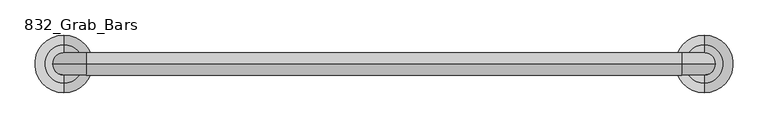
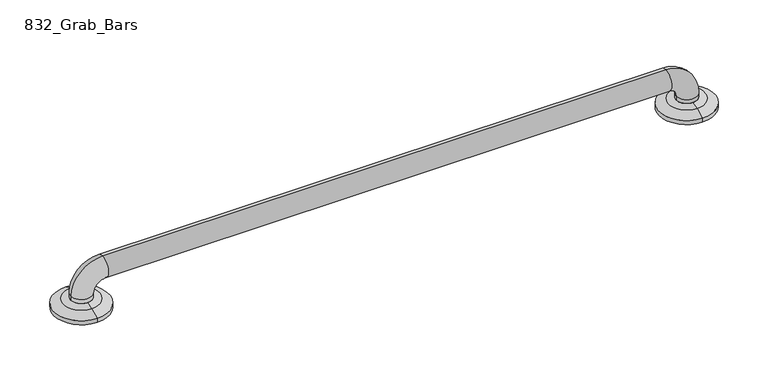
"""IFC4 building model written with IfcOpenShell, lengths in millimetres: proxy geometry, 832_Grab_Bars : 8320-001360."""

from ifc_helpers import new_model, si_unit, point, frame, origin, place, context, project, spatial, polyline, circle_curve, ellipse_curve, trimmed, source, transform, mapped, element, save
from ifc_brep_helpers import plane_surface, cylinder_surface, revolved_surface, advanced_brep


def proxy_832_grab_bars_51fee9e1(model_context):
    return source(origin(), model_context, "Body", "AdvancedBrep", [
        advanced_brep(
        [(-363.5375, -564.1630987, 13.1934507), (-363.5375, -508.9869013, 13.1934507), (-363.5375, -495.3, 6.35), (-363.5375, -577.85, 6.35), (-363.5375, -552.8038734, 15.875), (-363.5375, -520.3461266, 15.875), (-363.5375, -552.45, 15.875), (-379.4125, -536.575, 15.875), (-363.5375, -520.7, 15.875), (-347.6625, -536.575, 15.875), (-363.5375, -577.85, 0.0), (-363.5375, -495.3, 0.0), (-363.5375, -520.7, 0.0), (-363.5375, -536.575, 0.0), (-363.5375, -552.45, 0.0), (550.8625, -564.2276895, 13.1934507), (550.8625, -509.0514921, 13.1934507), (550.8625, -495.3645908, 6.35), (550.8625, -577.9145908, 6.35), (550.8625, -552.8684641, 15.875), (550.8625, -520.4107174, 15.875), (550.8625, -552.45, 15.875), (534.9875, -536.575, 15.875), (550.8625, -520.7, 15.875), (566.7375, -536.575, 15.875), (550.8625, -577.9145908, 0.0), (550.8625, -495.3645908, 0.0), (550.8625, -520.7, 0.0), (550.8625, -536.6395908, 0.0), (550.8625, -552.45, 0.0), (-379.4125, -536.575, 22.225), (-347.6625, -536.575, 22.225), (-331.7875, -536.575, 69.85), (-331.7875, -536.575, 38.1), (519.1125, -536.575, 69.85), (519.1125, -536.575, 38.1), (566.7375, -536.575, 22.225), (534.9875, -536.575, 22.225)],
        [
            (0, 1, circle_curve(frame((-363.5375, -536.575, 13.1934507), z_axis=(0.0, 0.0, -1.0), x_axis=(0.0, 1.0, 0.0)), 27.5880987)),
            (1, 2),
            (2, 3, circle_curve(frame((-363.5375, -536.575, 6.35), z_axis=(0.0, 0.0, 1.0), x_axis=(0.0, 1.0, 0.0)), 41.275)),
            (3, 0),
            (1, 0, circle_curve(frame((-363.5375, -536.575, 13.1934507), z_axis=(0.0, 0.0, -1.0), x_axis=(0.0, 1.0, 0.0)), 27.5880987)),
            (3, 2, circle_curve(frame((-363.5375, -536.575, 6.35), z_axis=(0.0, 0.0, 1.0), x_axis=(0.0, 1.0, 0.0)), 41.275)),
            (0, 4, circle_curve(frame((-363.5375, -552.8038734, -9.525), z_axis=(-1.0, 0.0, 0.0), x_axis=(0.0, 0.0, -1.0)), 25.4)),
            (4, 5, circle_curve(frame((-363.5375, -536.575, 15.875), z_axis=(0.0, 0.0, -1.0), x_axis=(0.0, 1.0, 0.0)), 16.2288734)),
            (5, 1, circle_curve(frame((-363.5375, -520.3461266, -9.525), z_axis=(-1.0, 0.0, 0.0), x_axis=(0.0, 0.0, -1.0)), 25.4)),
            (5, 4, circle_curve(frame((-363.5375, -536.575, 15.875), z_axis=(0.0, 0.0, -1.0), x_axis=(0.0, 1.0, 0.0)), 16.2288734)),
            (4, 6),
            (6, 7, circle_curve(frame((-363.5375, -536.575, 15.875), z_axis=(0.0, 0.0, -1.0), x_axis=(1.0, 0.0, 0.0)), 15.875)),
            (7, 8, circle_curve(frame((-363.5375, -536.575, 15.875), z_axis=(0.0, 0.0, -1.0), x_axis=(1.0, 0.0, 0.0)), 15.875)),
            (8, 5),
            (8, 9, circle_curve(frame((-363.5375, -536.575, 15.875), z_axis=(0.0, 0.0, -1.0), x_axis=(1.0, 0.0, 0.0)), 15.875)),
            (9, 6, circle_curve(frame((-363.5375, -536.575, 15.875), z_axis=(0.0, 0.0, -1.0), x_axis=(1.0, 0.0, 0.0)), 15.875)),
            (10, 11, circle_curve(frame((-363.5375, -536.575, 0.0), z_axis=(0.0, 0.0, -1.0), x_axis=(0.0, 1.0, 0.0)), 41.275)),
            (11, 12),
            (12, 13),
            (13, 14),
            (14, 10),
            (11, 10, circle_curve(frame((-363.5375, -536.575, 0.0), z_axis=(0.0, 0.0, -1.0), x_axis=(0.0, 1.0, 0.0)), 41.275)),
            (2, 11),
            (10, 3),
            (15, 16, circle_curve(frame((550.8625, -536.6395908, 13.1934507), z_axis=(0.0, 0.0, -1.0), x_axis=(0.0, 1.0, 0.0)), 27.5880987)),
            (16, 17),
            (17, 18, circle_curve(frame((550.8625, -536.6395908, 6.35), z_axis=(0.0, 0.0, 1.0), x_axis=(0.0, 1.0, 0.0)), 41.275)),
            (18, 15),
            (16, 15, circle_curve(frame((550.8625, -536.6395908, 13.1934507), z_axis=(0.0, 0.0, -1.0), x_axis=(0.0, 1.0, 0.0)), 27.5880987)),
            (18, 17, circle_curve(frame((550.8625, -536.6395908, 6.35), z_axis=(0.0, 0.0, 1.0), x_axis=(0.0, 1.0, 0.0)), 41.275)),
            (15, 19, circle_curve(frame((550.8625, -552.8684641, -9.525), z_axis=(-1.0, 0.0, 0.0), x_axis=(0.0, 0.0, -1.0)), 25.4)),
            (19, 20, circle_curve(frame((550.8625, -536.6395908, 15.875), z_axis=(0.0, 0.0, -1.0), x_axis=(0.0, 1.0, 0.0)), 16.2288734)),
            (20, 16, circle_curve(frame((550.8625, -520.4107174, -9.525), z_axis=(-1.0, 0.0, 0.0), x_axis=(0.0, 0.0, -1.0)), 25.4)),
            (20, 19, circle_curve(frame((550.8625, -536.6395908, 15.875), z_axis=(0.0, 0.0, -1.0), x_axis=(0.0, 1.0, 0.0)), 16.2288734)),
            (19, 21),
            (21, 22, circle_curve(frame((550.8625, -536.575, 15.875), z_axis=(0.0, 0.0, -1.0), x_axis=(-1.0, 0.0, 0.0)), 15.875)),
            (22, 23, circle_curve(frame((550.8625, -536.575, 15.875), z_axis=(0.0, 0.0, -1.0), x_axis=(-1.0, 0.0, 0.0)), 15.875)),
            (23, 20),
            (23, 24, circle_curve(frame((550.8625, -536.575, 15.875), z_axis=(0.0, 0.0, -1.0), x_axis=(-1.0, 0.0, 0.0)), 15.875)),
            (24, 21, circle_curve(frame((550.8625, -536.575, 15.875), z_axis=(0.0, 0.0, -1.0), x_axis=(-1.0, 0.0, 0.0)), 15.875)),
            (25, 26, circle_curve(frame((550.8625, -536.6395908, 0.0), z_axis=(0.0, 0.0, -1.0), x_axis=(0.0, 1.0, 0.0)), 41.275)),
            (26, 27),
            (27, 28),
            (28, 29),
            (29, 25),
            (26, 25, circle_curve(frame((550.8625, -536.6395908, 0.0), z_axis=(0.0, 0.0, -1.0), x_axis=(0.0, 1.0, 0.0)), 41.275)),
            (17, 26),
            (25, 18),
            (30, 31, circle_curve(frame((-363.5375, -536.575, 22.225), z_axis=(0.0, 0.0, -1.0), x_axis=(1.0, 0.0, 0.0)), 15.875)),
            (31, 9),
            (7, 30),
            (31, 30, circle_curve(frame((-363.5375, -536.575, 22.225), z_axis=(0.0, 0.0, -1.0), x_axis=(1.0, 0.0, 0.0)), 15.875)),
            (30, 32, circle_curve(frame((-331.7875, -536.575, 22.225), z_axis=(0.0, 1.0, 0.0), x_axis=(-1.0, 0.0, 0.0)), 47.625)),
            (32, 33, circle_curve(frame((-331.7875, -536.575, 53.975), z_axis=(-1.0, 0.0, 0.0), x_axis=(0.0, 0.0, -1.0)), 15.875)),
            (33, 31, circle_curve(frame((-331.7875, -536.575, 22.225), z_axis=(0.0, -1.0, 0.0), x_axis=(-1.0, 0.0, 0.0)), 15.875)),
            (33, 32, circle_curve(frame((-331.7875, -536.575, 53.975), z_axis=(-1.0, 0.0, 0.0), x_axis=(0.0, 0.0, -1.0)), 15.875)),
            (32, 34),
            (34, 35, circle_curve(frame((519.1125, -536.575, 53.975), z_axis=(-1.0, 0.0, 0.0), x_axis=(0.0, 0.0, -1.0)), 15.875)),
            (35, 33),
            (35, 34, circle_curve(frame((519.1125, -536.575, 53.975), z_axis=(-1.0, 0.0, 0.0), x_axis=(0.0, 0.0, -1.0)), 15.875)),
            (34, 36, circle_curve(frame((519.1125, -536.575, 22.225), z_axis=(0.0, 1.0, 0.0), x_axis=(0.0, 0.0, 1.0)), 47.625)),
            (36, 37, circle_curve(frame((550.8625, -536.575, 22.225), z_axis=(0.0, 0.0, 1.0), x_axis=(-1.0, 0.0, 0.0)), 15.875)),
            (37, 35, circle_curve(frame((519.1125, -536.575, 22.225), z_axis=(0.0, -1.0, 0.0), x_axis=(0.0, 0.0, 1.0)), 15.875)),
            (37, 36, circle_curve(frame((550.8625, -536.575, 22.225), z_axis=(0.0, 0.0, 1.0), x_axis=(-1.0, 0.0, 0.0)), 15.875)),
            (36, 24),
            (22, 37),
        ],
        [
            revolved_surface(polyline([(-363.5375, -495.3, 6.35), (-363.5375, -508.9869013, 13.1934507)]), (-363.5375, -536.575, 31.75), (0.0, 0.0, 1.0)),
            revolved_surface(trimmed(ellipse_curve(frame((-363.5375, -520.3461266, -9.525), z_axis=(1.0, 0.0, 0.0), x_axis=(0.0, 0.0, -1.0)), 25.4, 25.4), [point((-363.5375, -508.9869013, 13.1934507))], [point((-363.5375, -520.3461266, 15.875))], True, "CARTESIAN"), (-363.5375, -536.575, 31.75), (0.0, 0.0, 1.0)),
            plane_surface(frame((-363.5375, -536.575, 15.875), z_axis=(0.0, 0.0, 1.0), x_axis=(0.0, 1.0, 0.0))),
            plane_surface(frame((-363.5375, -536.575, 0.0), z_axis=(0.0, 0.0, -1.0), x_axis=(0.0, 1.0, 0.0))),
            cylinder_surface(frame((-363.5375, -536.575, 31.75), z_axis=(0.0, 0.0, 1.0), x_axis=(0.0, 1.0, 0.0)), 41.275),
            revolved_surface(polyline([(550.8625, -495.3645908, 6.35), (550.8625, -509.0514921, 13.1934507)]), (550.8625, -536.6395908, 31.75), (0.0, 0.0, 1.0)),
            revolved_surface(trimmed(ellipse_curve(frame((550.8625, -520.4107174, -9.525), z_axis=(1.0, 0.0, 0.0), x_axis=(0.0, 0.0, -1.0)), 25.4, 25.4), [point((550.8625, -509.0514921, 13.1934507))], [point((550.8625, -520.4107174, 15.875))], True, "CARTESIAN"), (550.8625, -536.6395908, 31.75), (0.0, 0.0, 1.0)),
            plane_surface(frame((550.8625, -536.6395908, 15.875), z_axis=(0.0, 0.0, 1.0), x_axis=(0.0, 1.0, 0.0))),
            plane_surface(frame((550.8625, -536.6395908, 0.0), z_axis=(0.0, 0.0, -1.0), x_axis=(0.0, 1.0, 0.0))),
            cylinder_surface(frame((550.8625, -536.6395908, 31.75), z_axis=(0.0, 0.0, 1.0), x_axis=(0.0, 1.0, 0.0)), 41.275),
            cylinder_surface(frame((-363.5375, -536.575, 0.0), z_axis=(0.0, 0.0, -1.0), x_axis=(1.0, 0.0, 0.0)), 15.875),
            revolved_surface(trimmed(ellipse_curve(frame((-363.5375, -536.575, 22.225), z_axis=(0.0, 0.0, -1.0), x_axis=(1.0, 0.0, 0.0)), 15.875, 15.875), [point((-379.4125, -536.575, 22.225))], [point((-347.6625, -536.575, 22.225))], True, "CARTESIAN"), (-331.7875, -536.575, 22.225), (0.0, 1.0, 0.0)),
            revolved_surface(trimmed(ellipse_curve(frame((-363.5375, -536.575, 22.225), z_axis=(0.0, 0.0, -1.0), x_axis=(1.0, 0.0, 0.0)), 15.875, 15.875), [point((-347.6625, -536.575, 22.225))], [point((-379.4125, -536.575, 22.225))], True, "CARTESIAN"), (-331.7875, -536.575, 22.225), (0.0, 1.0, 0.0)),
            cylinder_surface(frame((-331.7875, -536.575, 53.975), z_axis=(-1.0, 0.0, 0.0), x_axis=(0.0, 0.0, -1.0)), 15.875),
            revolved_surface(trimmed(ellipse_curve(frame((519.1125, -536.575, 53.975), z_axis=(-1.0, 0.0, 0.0), x_axis=(0.0, 0.0, -1.0)), 15.875, 15.875), [point((519.1125, -536.575, 69.85))], [point((519.1125, -536.575, 38.1))], True, "CARTESIAN"), (519.1125, -536.575, 22.225), (0.0, 1.0, 0.0)),
            revolved_surface(trimmed(ellipse_curve(frame((519.1125, -536.575, 53.975), z_axis=(-1.0, 0.0, 0.0), x_axis=(0.0, 0.0, -1.0)), 15.875, 15.875), [point((519.1125, -536.575, 38.1))], [point((519.1125, -536.575, 69.85))], True, "CARTESIAN"), (519.1125, -536.575, 22.225), (0.0, 1.0, 0.0)),
            cylinder_surface(frame((550.8625, -536.575, 22.225), z_axis=(0.0, 0.0, 1.0), x_axis=(-1.0, 0.0, 0.0)), 15.875),
        ],
        [
            (0, [[1, 2, 3, 4]]),
            (0, [[-2, 5, -4, 6]]),
            (1, [[-1, 7, 8, 9]]),
            (1, [[-5, -9, 10, -7]]),
            (2, [[-8, 11, 12, 13, 14]]),
            (2, [[-10, -14, 15, 16, -11]]),
            (3, [[17, 18, 19, 20, 21]]),
            (3, [[22, -21, -20, -19, -18]]),
            (4, [[-3, 23, -17, 24]]),
            (4, [[-6, -24, -22, -23]]),
            (5, [[25, 26, 27, 28]]),
            (5, [[-26, 29, -28, 30]]),
            (6, [[-25, 31, 32, 33]]),
            (6, [[-29, -33, 34, -31]]),
            (7, [[-32, 35, 36, 37, 38]]),
            (7, [[-34, -38, 39, 40, -35]]),
            (8, [[41, 42, 43, 44, 45]]),
            (8, [[46, -45, -44, -43, -42]]),
            (9, [[-27, 47, -41, 48]]),
            (9, [[-30, -48, -46, -47]]),
            (10, [[49, 50, -15, -13, 51]]),
            (10, [[52, -51, -12, -16, -50]]),
            (11, [[-49, 53, 54, 55]]),
            (12, [[-52, -55, 56, -53]]),
            (13, [[-54, 57, 58, 59]]),
            (13, [[-56, -59, 60, -57]]),
            (14, [[-58, 61, 62, 63]]),
            (15, [[-60, -63, 64, -61]]),
            (16, [[-62, 65, -39, -37, 66]]),
            (16, [[-64, -66, -36, -40, -65]]),
        ],
    ),
    ])


if __name__ == "__main__":
    model = new_model("IFC4")
    model_context = context("Model", 3, world=origin())
    ifc_project = project(units=[si_unit("LENGTHUNIT", "METRE", prefix="MILLI")], contexts=[model_context])
    site = spatial("IfcSite", under=ifc_project)
    building = spatial("IfcBuilding", under=site)
    placement = place(None, origin())
    proxy_832_grab_bars_shape = proxy_832_grab_bars_51fee9e1(model_context)
    element("IfcBuildingElementProxy", 1, Name="832_Grab_Bars : 8320-001360", ObjectType="832_Grab_Bars : 8320-001360", at=placement, inside=building, context=model_context, shape_type="MappedRepresentation", body=[
        mapped(proxy_832_grab_bars_shape, transform((0.0, 0.0, 0.0), x_axis=(1.0, 0.0, 0.0), y_axis=(0.0, 1.0, 0.0), z_axis=(0.0, 0.0, 1.0))),
    ])
    save(model, "model.ifc")
